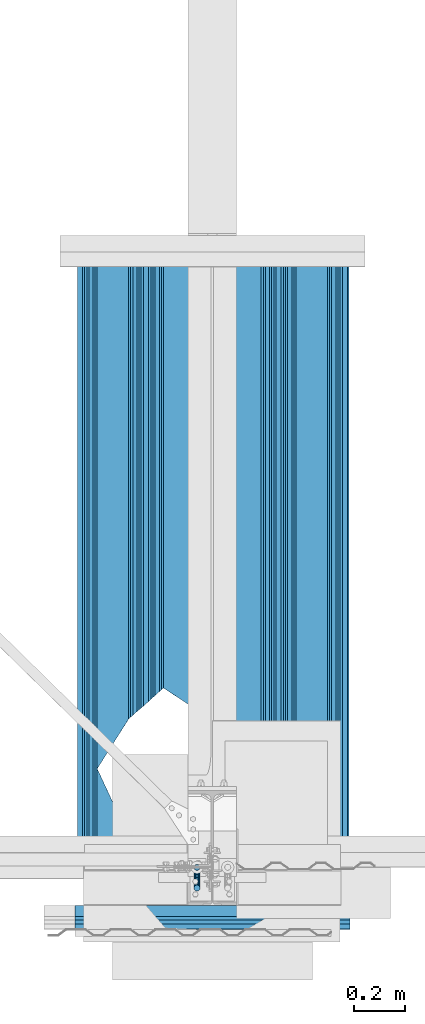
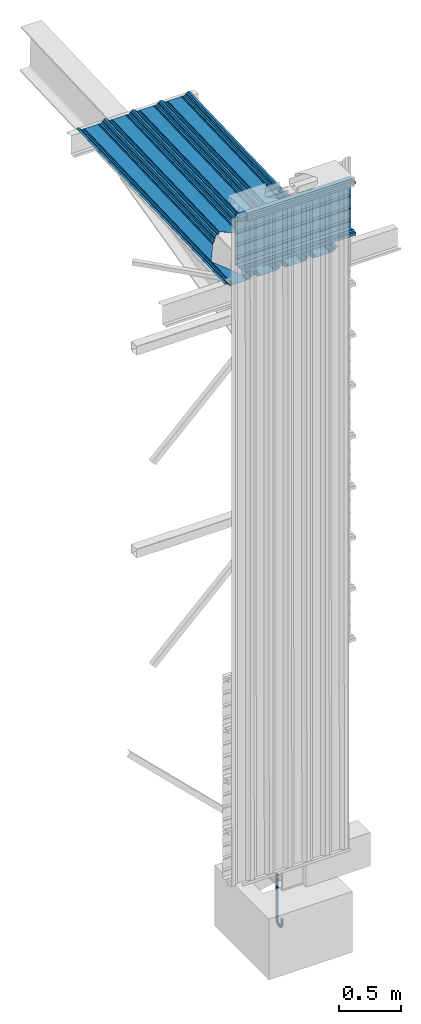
# One storey, part 6 of 21: 3 beams.
"""IFC2X3 building model written with IfcOpenShell, lengths in millimetres."""

import ifcopenshell
import ifcopenshell.guid

model = None  # the IFC model being written
_history = None  # IfcOwnerHistory: only IFC2X3 demands one
_inside = {}  # id of a spatial element -> (the spatial element, [elements in it])
_under = {}  # id of a project, library or spatial element -> (it, [spatial elements below it])
_declared = {}  # id of a project -> (the project, [libraries it declares])
_typed = {}  # id of a type object -> (the type object, [elements of that type])
_made_of = {}  # id of a material, layer set ... -> (it, [elements and type objects made of it])


def new_model(schema):
    """Start an empty IFC model of exactly this schema.

    Asked for "IFC4X3", IfcOpenShell would pick the latest addendum, in which some entities
    have other attributes; the version numbers below select the first issue.
    IFC2X3 requires an IfcOwnerHistory on every rooted entity: one is made here for all.
    """
    global model, _history
    if schema == "IFC4X3":
        model = ifcopenshell.file(schema_version=(4, 3, 0, 0))
    else:
        model = ifcopenshell.file(schema=schema)
    _inside.clear()
    _under.clear()
    _declared.clear()
    _typed.clear()
    _made_of.clear()
    _history = None
    if model.schema == "IFC2X3":
        org = make("IfcOrganization", Name="unknown")
        user = make(
            "IfcPersonAndOrganization",
            ThePerson=make("IfcPerson", FamilyName="unknown"),
            TheOrganization=org,
        )
        app = make(
            "IfcApplication",
            ApplicationDeveloper=org,
            Version="unknown",
            ApplicationFullName="unknown",
            ApplicationIdentifier="unknown",
        )
        _history = make(
            "IfcOwnerHistory",
            OwningUser=user,
            OwningApplication=app,
            ChangeAction="ADDED",
            CreationDate=0,
        )
    return model


def make(cls, **values):
    """One entity of the class cls with the attributes given. An attribute that is None is left unset."""
    return model.create_entity(
        cls, **{name: value for name, value in values.items() if value is not None}
    )


def rooted(cls, **values):
    """An entity with a GlobalId (a new one), such as an element, a storey or a relation."""
    return make(cls, GlobalId=ifcopenshell.guid.new(), OwnerHistory=_history, **values)


def si_unit(unit_type, name, prefix=None):
    """IfcSIUnit, for example si_unit("LENGTHUNIT", "METRE", prefix="MILLI")."""
    return make("IfcSIUnit", UnitType=unit_type, Prefix=prefix, Name=name)


def assignment(units):
    """IfcUnitAssignment: the units of a project."""
    return None if units is None else make("IfcUnitAssignment", Units=units)


def point(xyz):
    """IfcCartesianPoint."""
    return None if xyz is None else make("IfcCartesianPoint", Coordinates=xyz)


def direction(xyz):
    """IfcDirection."""
    return None if xyz is None else make("IfcDirection", DirectionRatios=xyz)


def frame(location, z_axis=None, x_axis=None):
    """IfcAxis2Placement3D, a coordinate frame: its origin and axes. An axis left out is left unset."""
    return make(
        "IfcAxis2Placement3D",
        Location=point(location),
        Axis=direction(z_axis),
        RefDirection=direction(x_axis),
    )


def origin_with_axes():
    """The frame at (0, 0, 0) with the z axis (0, 0, 1) and the x axis (1, 0, 0) written out."""
    return frame((0.0, 0.0, 0.0), z_axis=(0.0, 0.0, 1.0), x_axis=(1.0, 0.0, 0.0))


def place(relative_to, where):
    """IfcLocalPlacement: puts the frame where relative to a parent placement (None: the world)."""
    return make(
        "IfcLocalPlacement", PlacementRelTo=relative_to, RelativePlacement=where
    )


def context(
    kind, dimensions, precision=None, world=None, true_north=None, identifier=None
):
    """IfcGeometricRepresentationContext, for example the 3D "Model" context."""
    return make(
        "IfcGeometricRepresentationContext",
        ContextIdentifier=identifier,
        ContextType=kind,
        CoordinateSpaceDimension=dimensions,
        Precision=precision,
        WorldCoordinateSystem=world,
        TrueNorth=true_north,
    )


def project(units=None, contexts=None):
    """IfcProject with its units and contexts."""
    return rooted(
        "IfcProject",
        Name="project",
        RepresentationContexts=contexts,
        UnitsInContext=assignment(units),
    )


def spatial(cls, under=None, at=None, **own):
    """A site, building, storey or space (cls), placed at a placement, below another one or the project."""
    s = rooted(cls, ObjectPlacement=at, **own)
    if under is not None:
        _under.setdefault(under.id(), (under, []))[1].append(s)
    return s


def faces_of(points, faces, orient=None, outer=None):
    """IfcFace entities. A face is a list of loops; a loop is a list of indices into points, from 0.

    orient and outer hold one flag for each loop. By default every Orientation is true, the
    first loop of a face is its IfcFaceOuterBound and the others are IfcFaceBound.
    """
    made = []
    for i, loops in enumerate(faces):
        bounds = []
        for j, loop in enumerate(loops):
            is_outer = j == 0 if outer is None else outer[i][j]
            bounds.append(
                make(
                    "IfcFaceOuterBound" if is_outer else "IfcFaceBound",
                    Bound=make("IfcPolyLoop", Polygon=[points[k] for k in loop]),
                    Orientation=True if orient is None else orient[i][j],
                )
            )
        made.append(make("IfcFace", Bounds=bounds))
    return made


def faceted_brep(points, faces, orient=None, outer=None, voids=None):
    """IfcFacetedBrep: a solid bounded by flat faces; with voids (closed shells), ...WithVoids."""
    shared = [point(p) for p in points]
    hull = make("IfcClosedShell", CfsFaces=faces_of(shared, faces, orient, outer))
    if voids is None:
        return make("IfcFacetedBrep", Outer=hull)
    return make(
        "IfcFacetedBrepWithVoids",
        Outer=hull,
        Voids=[
            make(cls, CfsFaces=faces_of(shared, fs, o, b)) for cls, fs, o, b in voids
        ],
    )


def shape(context_of_items, identifier, shape_type, items):
    """IfcShapeRepresentation: the items that make up one representation, for example the "Body"."""
    return make(
        "IfcShapeRepresentation",
        ContextOfItems=context_of_items,
        RepresentationIdentifier=identifier,
        RepresentationType=shape_type,
        Items=items,
    )


def material(Name=None, Category=None):
    """IfcMaterial."""
    return make("IfcMaterial", Name=Name, Category=Category)


def made_of(thing, what):
    """Note that an element or type object is made of a material, layer set ...; save() writes the relation."""
    if what is not None:
        _made_of.setdefault(what.id(), (what, []))[1].append(thing)
    return thing


def type_object(cls, material=None, **own):
    """A type object (cls), such as IfcWallType, which elements share."""
    return made_of(rooted(cls, **own), material)


def element(
    cls,
    number,
    at=None,
    inside=None,
    cuts=None,
    type_object=None,
    material=None,
    context=None,
    identifier="Body",
    shape_type=None,
    held_by="IfcProductDefinitionShape",
    body=None,
    shapes=None,
    **own,
):
    """One element of the class cls, such as IfcWall. Its Tag is "e" and its number.

    at: its placement. inside: the storey or other place that contains it. cuts: it is an
    opening in that element (IfcRelVoidsElement). A single representation is given by context,
    identifier, shape_type and body (its items); several are given by shapes. held_by: the class
    of the entity that holds the representations. save() writes the other relations.
    """
    e = rooted(cls, Tag="e%d" % number, ObjectPlacement=at, **own)
    if body is not None:
        shapes = [shape(context, identifier, shape_type, body)]
    if shapes is not None:
        e.Representation = make(held_by, Representations=shapes)
    if inside is not None:
        _inside.setdefault(inside.id(), (inside, []))[1].append(e)
    if cuts is not None:
        rooted(
            "IfcRelVoidsElement", RelatingBuildingElement=cuts, RelatedOpeningElement=e
        )
    if type_object is not None:
        _typed.setdefault(type_object.id(), (type_object, []))[1].append(e)
    return made_of(e, material)


def aggregate(whole, parts):
    """IfcRelAggregates: a whole, such as a stair, and the parts it consists of."""
    return rooted("IfcRelAggregates", RelatingObject=whole, RelatedObjects=parts)


def save(model, path):
    """Write the relations noted so far, then the file.

    IfcRelAggregates (storeys below a building ...), IfcRelContainedInSpatialStructure (elements
    in a storey), IfcRelDefinesByType, IfcRelAssociatesMaterial and IfcRelDeclares: one each for
    every whole, place, type object, material and project.
    """
    for whole, parts in _under.values():
        aggregate(whole, parts)
    for where, things in _inside.values():
        rooted(
            "IfcRelContainedInSpatialStructure",
            RelatedElements=things,
            RelatingStructure=where,
        )
    for kind, things in _typed.values():
        rooted("IfcRelDefinesByType", RelatedObjects=things, RelatingType=kind)
    for what, things in _made_of.values():
        rooted("IfcRelAssociatesMaterial", RelatedObjects=things, RelatingMaterial=what)
    for by, libraries in _declared.values():
        rooted("IfcRelDeclares", RelatingContext=by, RelatedDefinitions=libraries)
    model.write(path)


model = new_model("IFC2X3")

# Units and contexts
model_context_1 = context("Model", 3, precision=1e-05, world=origin_with_axes(), identifier="Body")
model_context_2 = context("Model", 3, precision=1e-05, world=origin_with_axes())
ifc_project = project(units=[si_unit("LENGTHUNIT", "METRE", prefix="MILLI"), si_unit("AREAUNIT", "SQUARE_METRE"), si_unit("VOLUMEUNIT", "CUBIC_METRE"), si_unit("MASSUNIT", "GRAM", prefix="KILO"), si_unit("TIMEUNIT", "SECOND"), si_unit("PLANEANGLEUNIT", "RADIAN"), si_unit("SOLIDANGLEUNIT", "STERADIAN"), si_unit("THERMODYNAMICTEMPERATUREUNIT", "DEGREE_CELSIUS"), si_unit("LUMINOUSINTENSITYUNIT", "LUMEN")], contexts=[model_context_1, model_context_2])

# Site, building, storey
site_placement = place(None, origin_with_axes())
site = spatial("IfcSite", under=ifc_project, at=site_placement, Name="Undefined", CompositionType="ELEMENT")
building_placement = place(site_placement, origin_with_axes())
building = spatial("IfcBuilding", under=site, at=building_placement, Name="Undefined", CompositionType="ELEMENT")
storey_placement = place(building_placement, origin_with_axes())
storey = spatial("IfcBuildingStorey", under=building, at=storey_placement, Name="Undefined", CompositionType="ELEMENT")

# Beams
ifc_material = material(Name="STEEL/S235JR")
beam_type_1 = type_object("IfcBeamType", Name="ARCLAD_FPB_MURESCO_1.500.90_BS_75", PredefinedType="NOTDEFINED")
beam_1_placement = place(storey_placement, frame((-536.5, -270.99202, 6279.9985), z_axis=(4.4408925e-19, 1.0, 3.1900003e-05), x_axis=(1.0, 0.0, 0.0)))
element("IfcBeam", 1, at=beam_1_placement, inside=storey, type_object=beam_type_1, material=ifc_material, Name="bac", ObjectType="ARCLAD_FPB_MURESCO_1.500.90_BS_75", context=model_context_1, shape_type="Brep", body=[
    faceted_brep([(0.0, 278.0, -36.0), (0.0, 278.0, -45.0), (1073.0, 278.0, -45.0), (1073.0, 278.0, -36.0), (0.0, 250.0, -45.0), (1073.0, 250.0, -45.0), (0.0, 250.0, -26.110001), (1073.0, 250.0, -26.110001), (0.0, 242.17, -10.67), (1073.0, 242.17, -10.67), (0.0, 250.0, 4.7800002), (1073.0, 250.0, 4.7800002), (0.0, 250.0, 46.0), (1073.0, 250.0, 46.0), (0.0, 200.44, 46.0), (1073.0, 200.44, 46.0), (0.0, 185.0, 38.169998), (1073.0, 185.0, 38.169998), (0.0, 169.56, 46.0), (1073.0, 169.56, 46.0), (0.0, 77.110001, 46.0), (1073.0, 77.110001, 46.0), (0.0, 61.669998, 38.169998), (1073.0, 61.669998, 38.169998), (0.0, 46.220001, 46.0), (1073.0, 46.220001, 46.0), (0.0, -46.220001, 46.0), (1073.0, -46.220001, 46.0), (0.0, -61.669998, 38.169998), (1073.0, -61.669998, 38.169998), (0.0, -77.110001, 46.0), (1073.0, -77.110001, 46.0), (0.0, -169.56, 46.0), (1073.0, -169.56, 46.0), (0.0, -185.0, 38.169998), (1073.0, -185.0, 38.169998), (0.0, -200.44, 46.0), (1073.0, -200.44, 46.0), (0.0, -250.0, 46.0), (1073.0, -250.0, 46.0), (0.0, -250.0, 4.7800002), (1073.0, -250.0, 4.7800002), (0.0, -242.17, -10.67), (1073.0, -242.17, -10.67), (0.0, -250.0, -26.110001), (1073.0, -250.0, -26.110001), (0.0, -250.0, -45.0), (1073.0, -250.0, -45.0), (0.0, -230.0, -45.0), (1073.0, -230.0, -45.0), (0.0, -225.35001, -41.540001), (1073.0, -225.35001, -41.540001), (0.0, -225.95, -40.740002), (1073.0, -225.95, -40.740002), (0.0, -230.33, -44.0), (1073.0, -230.33, -44.0), (0.0, -249.0, -44.0), (1073.0, -249.0, -44.0), (0.0, -249.0, -26.35), (1073.0, -249.0, -26.35), (0.0, -241.05, -10.67), (1073.0, -241.05, -10.67), (0.0, -249.0, 5.02), (1073.0, -249.0, 5.02), (0.0, -249.0, 45.0), (1073.0, -249.0, 45.0), (0.0, -200.67999, 45.0), (1073.0, -200.67999, 45.0), (0.0, -185.0, 37.049999), (1073.0, -185.0, 37.049999), (0.0, -169.32001, 45.0), (1073.0, -169.32001, 45.0), (0.0, -77.349998, 45.0), (1073.0, -77.349998, 45.0), (0.0, -61.669998, 37.049999), (1073.0, -61.669998, 37.049999), (0.0, -45.98, 45.0), (1073.0, -45.98, 45.0), (0.0, 45.98, 45.0), (1073.0, 45.98, 45.0), (0.0, 61.669998, 37.049999), (1073.0, 61.669998, 37.049999), (0.0, 77.349998, 45.0), (1073.0, 77.349998, 45.0), (0.0, 169.32001, 45.0), (1073.0, 169.32001, 45.0), (0.0, 185.0, 37.049999), (1073.0, 185.0, 37.049999), (0.0, 200.67999, 45.0), (1073.0, 200.67999, 45.0), (0.0, 249.0, 45.0), (1073.0, 249.0, 45.0), (0.0, 249.0, 5.02), (1073.0, 249.0, 5.02), (0.0, 241.05, -10.67), (1073.0, 241.05, -10.67), (0.0, 249.0, -26.35), (1073.0, 249.0, -26.35), (0.0, 249.0, -46.0), (1073.0, 249.0, -46.0), (0.0, 279.0, -46.0), (1073.0, 279.0, -46.0), (0.0, 279.0, -36.0), (1073.0, 279.0, -36.0)], [[[0, 1, 2, 3]], [[1, 4, 5, 2]], [[4, 6, 7, 5]], [[6, 8, 9, 7]], [[8, 10, 11, 9]], [[10, 12, 13, 11]], [[12, 14, 15, 13]], [[14, 16, 17, 15]], [[16, 18, 19, 17]], [[18, 20, 21, 19]], [[20, 22, 23, 21]], [[22, 24, 25, 23]], [[24, 26, 27, 25]], [[26, 28, 29, 27]], [[28, 30, 31, 29]], [[30, 32, 33, 31]], [[32, 34, 35, 33]], [[34, 36, 37, 35]], [[36, 38, 39, 37]], [[38, 40, 41, 39]], [[40, 42, 43, 41]], [[42, 44, 45, 43]], [[44, 46, 47, 45]], [[46, 48, 49, 47]], [[48, 50, 51, 49]], [[50, 52, 53, 51]], [[52, 54, 55, 53]], [[54, 56, 57, 55]], [[56, 58, 59, 57]], [[58, 60, 61, 59]], [[60, 62, 63, 61]], [[62, 64, 65, 63]], [[64, 66, 67, 65]], [[66, 68, 69, 67]], [[68, 70, 71, 69]], [[70, 72, 73, 71]], [[72, 74, 75, 73]], [[74, 76, 77, 75]], [[76, 78, 79, 77]], [[78, 80, 81, 79]], [[80, 82, 83, 81]], [[82, 84, 85, 83]], [[84, 86, 87, 85]], [[86, 88, 89, 87]], [[88, 90, 91, 89]], [[90, 92, 93, 91]], [[92, 94, 95, 93]], [[94, 96, 97, 95]], [[96, 98, 99, 97]], [[98, 100, 101, 99]], [[100, 102, 103, 101]], [[102, 0, 3, 103]], [[5, 7, 9, 11, 13, 15, 17, 19, 21, 23, 25, 27, 29, 31, 33, 35, 37, 39, 41, 43, 45, 47, 49, 51, 53, 55, 57, 59, 61, 63, 65, 67, 69, 71, 73, 75, 77, 79, 81, 83, 85, 87, 89, 91, 93, 95, 97, 99, 101, 103, 3, 2]], [[102, 100, 98, 96, 94, 92, 90, 88, 86, 84, 82, 80, 78, 76, 74, 72, 70, 68, 66, 64, 62, 60, 58, 56, 54, 52, 50, 48, 46, 44, 42, 40, 38, 36, 34, 32, 30, 28, 26, 24, 22, 20, 18, 16, 14, 12, 10, 8, 6, 4, 1, 0]]]),
])
beam_type_2 = type_object("IfcBeamType", Name="D24", PredefinedType="NOTDEFINED")
beam_2_placement = place(storey_placement, frame((-60.0, -74.999999, -235.0), z_axis=(0.0, -1.0, 0.0), x_axis=(1.2908193e-13, -1.8000416e-13, -1.0)))
element("IfcBeam", 2, at=beam_2_placement, inside=storey, type_object=beam_type_2, material=ifc_material, Name="BARRE", ObjectType="D24", context=model_context_1, shape_type="Brep", body=[
    faceted_brep([(3.6095571e-12, -12.0, 7.2049033e-12), (1.6768809e-12, -10.392305, -6.0), (448.0, -10.392305, -6.0), (448.0, -12.0, -1.3180568e-10), (1.4210855e-13, -6.0, -10.392305), (448.0, -6.0, -10.392305), (-5.6843419e-13, -1.1297629e-12, -12.0), (448.0, 1.5937474e-11, -12.0), (-3.126388e-13, 6.0, -10.392305), (448.0, 6.0, -10.392305), (9.094947e-13, 10.392305, -6.0), (448.0, 10.392305, -6.0), (2.7000624e-12, 12.0, 7.2049033e-12), (448.0, 12.0, -1.3190515e-10), (4.6327386e-12, 10.392305, 6.0), (448.0, 10.392305, 6.0), (6.1675109e-12, 6.0, 10.392305), (448.0, 6.0, 10.392305), (6.8780537e-12, -1.1297629e-12, 12.0), (448.0, 1.5930368e-11, 12.0), (6.6222583e-12, -6.0, 10.392305), (448.0, -6.0, 10.392305), (5.4001248e-12, -10.392305, 6.0), (448.0, -10.392305, 6.0), (467.89954, 1.6179058e-11, -8.0417357), (467.2843, -6.0, -6.556419), (465.60344, -10.392305, -2.4984585), (463.30734, -12.0, 3.0448187), (461.01124, -10.392305, 8.5880959), (459.33037, -6.0, 12.646056), (458.71514, 1.6683543e-11, 14.131373), (459.33037, 6.0, 12.646056), (461.01124, 10.392305, 8.5880959), (463.30734, 12.0, 3.0448187), (465.60344, 10.392305, -2.4984585), (467.2843, 6.0, -6.556419), (483.63274, 6.0, 4.3672595), (484.76955, 1.679723e-11, 3.2304474), (480.52691, 10.392305, 7.4730881), (476.28427, 12.0, 11.715729), (472.04163, 10.392305, 15.958369), (468.9358, 6.0, 19.064198), (467.79899, 1.6683543e-11, 20.20101), (468.9358, -6.0, 19.064198), (472.04163, -10.392305, 15.958369), (476.28427, -12.0, 11.715729), (480.52691, -10.392305, 7.4730881), (483.63274, -6.0, 4.3672595), (494.55642, 6.0, 20.7157), (496.04174, 1.6974866e-11, 20.100462), (490.49846, 10.392305, 22.396562), (484.95518, 12.0, 24.692663), (479.4119, 10.392305, 26.988763), (475.35394, 6.0, 28.669626), (473.86863, 1.6441959e-11, 29.284864), (475.35394, -6.0, 28.669626), (479.4119, -10.392305, 26.988763), (484.95518, -12.0, 24.692663), (490.49846, -10.392305, 22.396562), (494.55642, -6.0, 20.7157), (498.3923, 6.0, 40.0), (500.0, 1.6562751e-11, 40.0), (494.0, 10.392305, 40.0), (488.0, 12.0, 40.0), (482.0, 10.392305, 40.0), (477.6077, 6.0, 40.0), (476.0, 1.5873525e-11, 40.0), (477.6077, -6.0, 40.0), (482.0, -10.392305, 40.0), (488.0, -12.0, 40.0), (494.0, -10.392305, 40.0), (498.3923, -6.0, 40.0), (494.0, -10.392305, 40.414497), (488.0, -12.0, 40.414497), (498.3923, -6.0, 40.414497), (500.0, 1.804068e-11, 40.414497), (498.3923, 6.0, 40.414497), (494.0, 10.392305, 40.414497), (488.0, 12.0, 40.414497), (482.0, 10.392305, 40.414497), (477.6077, 6.0, 40.414497), (476.0, 1.7060131e-11, 40.414497), (477.6077, -6.0, 40.414497), (482.0, -10.392305, 40.414497), (496.09339, 1.7820412e-11, 60.188864), (494.60648, -6.0, 59.577495), (490.54415, -10.392305, 57.907206), (484.99492, -12.0, 55.625548), (479.44568, -10.392305, 53.34389), (475.38336, -6.0, 51.673601), (473.89644, 1.5887736e-11, 51.062233), (475.38336, 6.0, 51.673601), (479.44568, 10.392305, 53.34389), (484.99492, 12.0, 55.625548), (490.54415, 10.392305, 57.907206), (494.60648, 6.0, 59.577495), (483.81784, 6.0, 75.861174), (484.96055, 1.6733281e-11, 76.99205), (480.69587, 10.392305, 72.771563), (476.4312, 12.0, 68.551076), (472.16652, 10.392305, 64.330589), (469.04455, 6.0, 61.240978), (467.90184, 1.5312196e-11, 60.110102), (469.04455, -6.0, 61.240978), (472.16652, -10.392305, 64.330589), (476.4312, -12.0, 68.551076), (480.69587, -10.392305, 72.771563), (483.81784, -6.0, 75.861174), (467.64742, 6.0, 86.818843), (468.27424, 1.5646151e-11, 88.299308), (465.9349, 10.392305, 82.774138), (463.59557, 12.0, 77.248967), (461.25623, 10.392305, 71.723797), (459.54372, 6.0, 67.679091), (458.9169, 1.4750867e-11, 66.198626), (459.54372, -6.0, 67.679091), (461.25623, -10.392305, 71.723797), (463.59557, -12.0, 77.248967), (465.9349, -10.392305, 82.774138), (467.64742, -6.0, 86.818843), (448.52489, 6.0, 90.804068), (448.54164, 1.4722445e-11, 92.411676), (448.47914, 10.392305, 86.412001), (448.41664, 12.0, 80.412327), (448.35415, 10.392305, 74.412652), (448.3084, 6.0, 70.020586), (448.29165, 1.4267698e-11, 68.412978), (448.3084, -6.0, 70.020586), (448.35415, -10.392305, 74.412652), (448.41664, -12.0, 80.412327), (448.47914, -10.392305, 86.412001), (448.52489, -6.0, 90.804068), (392.0625, -10.392305, 86.999675), (392.0, -12.0, 81.0), (392.10825, -6.0, 91.391741), (392.12499, 1.3642421e-11, 92.999349), (392.10825, 6.0, 91.391741), (392.0625, 10.392305, 86.999675), (392.0, 12.0, 81.0), (391.9375, 10.392305, 75.000325), (391.89175, 6.0, 70.608259), (391.87501, 1.3606893e-11, 69.000651), (391.89175, -6.0, 70.608259), (391.9375, -10.392305, 75.000325)], [[[0, 1, 2, 3]], [[1, 4, 5, 2]], [[4, 6, 7, 5]], [[6, 8, 9, 7]], [[8, 10, 11, 9]], [[10, 12, 13, 11]], [[12, 14, 15, 13]], [[14, 16, 17, 15]], [[16, 18, 19, 17]], [[18, 20, 21, 19]], [[20, 22, 23, 21]], [[22, 0, 3, 23]], [[22, 20, 18, 16, 14, 12, 10, 8, 6, 4, 1, 0]], [[5, 7, 24, 25]], [[2, 5, 25, 26]], [[3, 2, 26, 27]], [[23, 3, 27, 28]], [[21, 23, 28, 29]], [[19, 21, 29, 30]], [[17, 19, 30, 31]], [[15, 17, 31, 32]], [[13, 15, 32, 33]], [[11, 13, 33, 34]], [[9, 11, 34, 35]], [[7, 9, 35, 24]], [[35, 36, 37, 24]], [[34, 38, 36, 35]], [[33, 39, 38, 34]], [[32, 40, 39, 33]], [[31, 41, 40, 32]], [[30, 42, 41, 31]], [[29, 43, 42, 30]], [[28, 44, 43, 29]], [[27, 45, 44, 28]], [[26, 46, 45, 27]], [[25, 47, 46, 26]], [[24, 37, 47, 25]], [[36, 48, 49, 37]], [[38, 50, 48, 36]], [[39, 51, 50, 38]], [[40, 52, 51, 39]], [[41, 53, 52, 40]], [[42, 54, 53, 41]], [[43, 55, 54, 42]], [[44, 56, 55, 43]], [[45, 57, 56, 44]], [[46, 58, 57, 45]], [[47, 59, 58, 46]], [[37, 49, 59, 47]], [[48, 60, 61, 49]], [[50, 62, 60, 48]], [[51, 63, 62, 50]], [[52, 64, 63, 51]], [[53, 65, 64, 52]], [[54, 66, 65, 53]], [[55, 67, 66, 54]], [[56, 68, 67, 55]], [[57, 69, 68, 56]], [[58, 70, 69, 57]], [[59, 71, 70, 58]], [[49, 61, 71, 59]], [[69, 70, 72, 73]], [[70, 71, 74, 72]], [[71, 61, 75, 74]], [[61, 60, 76, 75]], [[60, 62, 77, 76]], [[62, 63, 78, 77]], [[63, 64, 79, 78]], [[64, 65, 80, 79]], [[65, 66, 81, 80]], [[66, 67, 82, 81]], [[67, 68, 83, 82]], [[68, 69, 73, 83]], [[74, 75, 84, 85]], [[72, 74, 85, 86]], [[73, 72, 86, 87]], [[83, 73, 87, 88]], [[82, 83, 88, 89]], [[81, 82, 89, 90]], [[80, 81, 90, 91]], [[79, 80, 91, 92]], [[78, 79, 92, 93]], [[77, 78, 93, 94]], [[76, 77, 94, 95]], [[75, 76, 95, 84]], [[95, 96, 97, 84]], [[94, 98, 96, 95]], [[93, 99, 98, 94]], [[92, 100, 99, 93]], [[91, 101, 100, 92]], [[90, 102, 101, 91]], [[89, 103, 102, 90]], [[88, 104, 103, 89]], [[87, 105, 104, 88]], [[86, 106, 105, 87]], [[85, 107, 106, 86]], [[84, 97, 107, 85]], [[96, 108, 109, 97]], [[98, 110, 108, 96]], [[99, 111, 110, 98]], [[100, 112, 111, 99]], [[101, 113, 112, 100]], [[102, 114, 113, 101]], [[103, 115, 114, 102]], [[104, 116, 115, 103]], [[105, 117, 116, 104]], [[106, 118, 117, 105]], [[107, 119, 118, 106]], [[97, 109, 119, 107]], [[108, 120, 121, 109]], [[110, 122, 120, 108]], [[111, 123, 122, 110]], [[112, 124, 123, 111]], [[113, 125, 124, 112]], [[114, 126, 125, 113]], [[115, 127, 126, 114]], [[116, 128, 127, 115]], [[117, 129, 128, 116]], [[118, 130, 129, 117]], [[119, 131, 130, 118]], [[109, 121, 131, 119]], [[129, 130, 132, 133]], [[130, 131, 134, 132]], [[131, 121, 135, 134]], [[121, 120, 136, 135]], [[120, 122, 137, 136]], [[122, 123, 138, 137]], [[123, 124, 139, 138]], [[124, 125, 140, 139]], [[125, 126, 141, 140]], [[126, 127, 142, 141]], [[127, 128, 143, 142]], [[128, 129, 133, 143]], [[134, 135, 136, 137, 138, 139, 140, 141, 142, 143, 133, 132]]]),
])
beam_type_3 = type_object("IfcBeamType", Name="ARCLAD_TSE_TOITESCO_4.1035.34_SRP_75", PredefinedType="NOTDEFINED")
beam_3_placement = place(storey_placement, frame((9.7284454e-06, 2359.7906, 5789.6338), z_axis=(1.2895225e-13, 0.03327, -0.9994464), x_axis=(4.6196486e-15, -0.9994464, -0.03327)))
element("IfcBeam", 3, at=beam_3_placement, inside=storey, type_object=beam_type_3, material=ifc_material, Name="bac", ObjectType="ARCLAD_TSE_TOITESCO_4.1035.34_SRP_75", context=model_context_1, shape_type="Brep", body=[
    faceted_brep([(2314.1912, 131.68475, 15.5), (2314.1912, 131.68475, 16.5), (2314.8754, 190.99001, 16.5), (2314.9649, 198.75, 12.62), (2315.0545, 206.50999, 16.5), (2315.2605, 224.37, 16.5), (2315.3497, 232.10001, 0.83999997), (2315.4454, 240.39, 0.11), (2315.5485, 249.33, -15.5), (2315.7659, 268.17001, -15.5), (2315.869, 277.10999, 0.11), (2315.9647, 285.39999, 0.83999997), (2316.0538, 293.13, 16.5), (2316.2599, 310.98999, 16.5), (2316.3494, 318.75, 12.62), (2316.439, 326.51001, 16.5), (2316.439, 326.75, 15.5), (2316.3494, 318.75, 11.5), (2316.2571, 310.75, 15.5), (2316.061, 293.75, 15.5), (2315.9722, 286.04999, -0.11), (2315.876, 277.72, -0.83999997), (2315.7726, 268.75, -16.5), (2315.5418, 248.75, -16.5), (2315.4383, 239.78, -0.83999997), (2315.3422, 231.45, -0.11), (2315.2534, 223.75, 15.5), (2315.0572, 206.75, 15.5), (2314.9649, 198.75, 11.5), (2314.8726, 190.75, 15.5), (2051.3207, 449.73999, 16.5), (2051.3207, 449.5, 15.5), (1857.1636, 326.51001, 16.5), (1857.1636, 326.75, 15.5), (1743.2532, 198.75, 11.5), (1750.3726, 206.75, 15.5), (1765.5013, 223.75, 15.5), (1772.3537, 231.45, -0.11), (1779.7668, 239.78, -0.83999997), (1787.7494, 248.75, -16.5), (1805.5479, 268.75, -16.5), (1813.5306, 277.72, -0.83999997), (1820.9436, 286.04999, -0.11), (1827.7961, 293.75, 15.5), (1842.9248, 310.75, 15.5), (1850.0442, 318.75, 11.5), (1850.0442, 318.75, 12.62), (1843.1384, 310.98999, 16.5), (1827.2443, 293.13, 16.5), (1820.3652, 285.39999, 0.83999997), (1812.9877, 277.10999, 0.11), (1805.0318, 268.17001, -15.5), (1788.2656, 249.33, -15.5), (1780.3097, 240.39, 0.11), (1772.9322, 232.10001, 0.83999997), (1766.0531, 224.37, 16.5), (1750.159, 206.50999, 16.5), (1743.2532, 198.75, 12.62), (1736.3474, 190.99001, 16.5), (1736.3474, 190.75, 15.5), (1854.6552, 10.0, -16.5), (1848.7918, 18.969999, -0.83999997), (1843.3467, 27.299999, -0.11), (1838.3134, 35.0, 15.5), (1827.2011, 52.0, 15.5), (1821.9717, 60.0, 11.5), (1816.7423, 68.0, 15.5), (1816.8992, 67.760002, 16.5), (1821.9717, 60.0, 12.62), (1827.0442, 52.240002, 16.5), (1838.7187, 34.380001, 16.5), (1843.7716, 26.65, 0.83999997), (1849.1905, 18.360001, 0.11), (1855.0343, 9.4200001, -15.5), (1861.1919, 2.0485864e-05, -15.5), (1861.1919, 2.0592905e-05, -16.5), (1983.194, -10.0, -16.5), (1976.1179, -9.4200001, -15.5), (2070.9132, -17.189989, -1.932939), (2070.9132, -17.189989, -3.9475765), (2083.6102, -9.4200001, -15.5), (2114.3969, 9.4200001, -15.5), (2129.0059, 18.360001, 0.11), (2142.5526, 26.65, 0.83999997), (2155.1843, 34.380001, 16.5), (2184.3696, 52.240002, 16.5), (2197.0503, 60.0, 12.62), (2209.731, 67.760002, 16.5), (2210.1232, 68.0, 15.5), (2197.0503, 60.0, 11.5), (2183.9774, 52.0, 15.5), (2156.1975, 35.0, 15.5), (2143.6148, 27.299999, -0.11), (2130.0027, 18.969999, -0.83999997), (2115.3447, 10.0, -16.5), (2082.6624, -10.0, -16.5), (0.0, -10.0, -16.5), (0.0, 10.0, -16.5), (-4.5474735e-13, 18.969999, -0.83999997), (0.0, 27.299999, -0.11), (0.0, 35.0, 15.5), (-4.5474735e-13, 52.0, 15.5), (-4.5474735e-13, 60.0, 11.5), (-4.5474735e-13, 68.0, 15.5), (-4.5474735e-13, 190.75, 15.5), (0.0, 198.75, 11.5), (-4.5474735e-13, 206.75, 15.5), (0.0, 223.75, 15.5), (0.0, 231.45, -0.11), (-4.5474735e-13, 239.78, -0.83999997), (-4.5474735e-13, 248.75, -16.5), (-4.5474735e-13, 268.75, -16.5), (-4.5474735e-13, 277.72, -0.83999997), (0.0, 286.04999, -0.11), (-4.5474735e-13, 293.75, 15.5), (-4.5474735e-13, 310.75, 15.5), (0.0, 318.75, 11.5), (0.0, 326.75, 15.5), (-4.5474735e-13, 449.5, 15.5), (0.0, 527.5, -16.5), (0.0, 527.5, -15.5), (2406.6946, 527.5, -15.5), (2406.6946, 527.5, -16.5), (-4.5474735e-13, 507.5, -16.5), (2406.6946, 507.5, -16.5), (-4.5474735e-13, 498.53, -0.83999997), (2406.6946, 498.53, -0.83999997), (0.0, 490.20001, -0.11), (2406.6946, 490.20001, -0.11), (-4.5474735e-13, 482.5, 15.5), (2406.6946, 482.5, 15.5), (-4.5474735e-13, 465.5, 15.5), (2406.6946, 465.5, 15.5), (-4.5474735e-13, 457.5, 11.5), (2406.6946, 457.5, 11.5), (2406.6946, 449.5, 15.5), (2406.6946, 326.75, 15.5), (2406.6946, 318.75, 11.5), (2406.6946, 310.75, 15.5), (2406.6946, 293.75, 15.5), (2406.6946, 286.04999, -0.11), (2406.6946, 277.72, -0.83999997), (2406.6946, 268.75, -16.5), (2406.6946, 248.75, -16.5), (2406.6946, 239.78, -0.83999997), (2406.6946, 231.45, -0.11), (2406.6946, 223.75, 15.5), (2406.6946, 206.75, 15.5), (2406.6946, 198.75, 11.5), (2406.6946, 190.75, 15.5), (2406.6946, 68.0, 15.5), (2406.6946, 60.0, 11.5), (2406.6946, 52.0, 15.5), (2406.6946, 35.0, 15.5), (2406.6946, 27.299999, -0.11), (2406.6946, 18.969999, -0.83999997), (2406.6946, 10.0, -16.5), (2406.6946, -10.0, -16.5), (2406.6946, -18.969999, -0.83999997), (-4.5474735e-13, -18.969999, -0.83999997), (0.0, -27.299999, -0.11), (2406.6946, -27.299999, -0.11), (-4.5474735e-13, -35.0, 15.5), (2406.6946, -35.0, 15.5), (0.0, -52.0, 15.5), (2406.6946, -52.0, 15.5), (0.0, -60.0, 11.5), (2406.6946, -60.0, 11.5), (0.0, -68.0, 15.5), (2406.6946, -68.0, 15.5), (0.0, -190.75, 15.5), (2406.6946, -190.75, 15.5), (0.0, -198.75, 11.5), (2406.6946, -198.75, 11.5), (0.0, -206.75, 15.5), (2406.6946, -206.75, 15.5), (-4.5474735e-13, -223.75, 15.5), (2406.6946, -223.75, 15.5), (0.0, -231.45, -0.11), (2406.6946, -231.45, -0.11), (-4.5474735e-13, -239.78, -0.83999997), (2406.6946, -239.78, -0.83999997), (0.0, -248.75, -16.5), (2406.6946, -248.75, -16.5), (0.0, -268.75, -16.5), (2406.6946, -268.75, -16.5), (-4.5474735e-13, -277.72, -0.83999997), (2406.6946, -277.72, -0.83999997), (0.0, -286.04999, -0.11), (2406.6946, -286.04999, -0.11), (0.0, -293.75, 15.5), (2406.6946, -293.75, 15.5), (0.0, -310.75, 15.5), (2406.6946, -310.75, 15.5), (0.0, -318.75, 11.5), (2406.6946, -318.75, 11.5), (-4.5474735e-13, -326.75, 15.5), (2406.6946, -326.75, 15.5), (0.0, -449.5, 15.5), (2406.6946, -449.5, 15.5), (0.0, -457.5, 11.5), (2406.6946, -457.5, 11.5), (0.0, -465.5, 15.5), (2406.6946, -465.5, 15.5), (0.0, -482.5, 15.5), (2406.6946, -482.5, 15.5), (0.0, -490.20001, -0.11), (2406.6946, -490.20001, -0.11), (-4.5474735e-13, -498.53, -0.83999997), (2406.6946, -498.53, -0.83999997), (0.0, -507.5, -16.5), (2406.6946, -507.5, -16.5), (0.0, -527.5, -16.5), (2406.6946, -527.5, -16.5), (-4.5474735e-13, -533.22998, -6.5), (2406.6946, -533.22998, -6.5), (-4.5474735e-13, -532.08002, -6.5), (2406.6946, -532.08002, -6.5), (0.0, -526.91998, -15.5), (2406.6946, -526.91998, -15.5), (0.0, -508.07999, -15.5), (2406.6946, -508.07999, -15.5), (0.0, -499.14001, 0.11), (2406.6946, -499.14001, 0.11), (0.0, -490.85001, 0.83999997), (2406.6946, -490.85001, 0.83999997), (-4.5474735e-13, -483.12, 16.5), (2406.6946, -483.12, 16.5), (-4.5474735e-13, -465.26001, 16.5), (2406.6946, -465.26001, 16.5), (0.0, -457.5, 12.62), (2406.6946, -457.5, 12.62), (-4.5474735e-13, -449.73999, 16.5), (2406.6946, -449.73999, 16.5), (-4.5474735e-13, -326.51001, 16.5), (2406.6946, -326.51001, 16.5), (0.0, -318.75, 12.62), (2406.6946, -318.75, 12.62), (-4.5474735e-13, -310.98999, 16.5), (2406.6946, -310.98999, 16.5), (-4.5474735e-13, -293.13, 16.5), (2406.6946, -293.13, 16.5), (0.0, -285.39999, 0.83999997), (2406.6946, -285.39999, 0.83999997), (0.0, -277.10999, 0.11), (2406.6946, -277.10999, 0.11), (0.0, -268.17001, -15.5), (2406.6946, -268.17001, -15.5), (0.0, -249.33, -15.5), (2406.6946, -249.33, -15.5), (-4.5474735e-13, -240.39, 0.11), (2406.6946, -240.39, 0.11), (-4.5474735e-13, -232.10001, 0.83999997), (2406.6946, -232.10001, 0.83999997), (-4.5474735e-13, -224.37, 16.5), (2406.6946, -224.37, 16.5), (-4.5474735e-13, -206.50999, 16.5), (2406.6946, -206.50999, 16.5), (0.0, -198.75, 12.62), (2406.6946, -198.75, 12.62), (-4.5474735e-13, -190.99001, 16.5), (2406.6946, -190.99001, 16.5), (-4.5474735e-13, -67.760002, 16.5), (2406.6946, -67.760002, 16.5), (0.0, -60.0, 12.62), (2406.6946, -60.0, 12.62), (-4.5474735e-13, -52.240002, 16.5), (2406.6946, -52.240002, 16.5), (-9.094947e-13, -34.380001, 16.5), (2406.6946, -34.380001, 16.5), (-4.5474735e-13, -26.65, 0.83999997), (2406.6946, -26.65, 0.83999997), (-4.5474735e-13, -18.360001, 0.11), (2406.6946, -18.360001, 0.11), (0.0, 9.4200001, -15.5), (0.0, -9.4200001, -15.5), (0.0, 18.360001, 0.11), (0.0, 26.65, 0.83999997), (-4.5474735e-13, 34.380001, 16.5), (-9.094947e-13, 52.240002, 16.5), (-4.5474735e-13, 60.0, 12.62), (-9.094947e-13, 67.760002, 16.5), (-9.094947e-13, 190.99001, 16.5), (0.0, 198.75, 12.62), (-4.5474735e-13, 206.50999, 16.5), (-4.5474735e-13, 224.37, 16.5), (0.0, 232.10001, 0.83999997), (0.0, 240.39, 0.11), (-4.5474735e-13, 249.33, -15.5), (-4.5474735e-13, 268.17001, -15.5), (-4.5474735e-13, 277.10999, 0.11), (-4.5474735e-13, 285.39999, 0.83999997), (-9.094947e-13, 293.13, 16.5), (-4.5474735e-13, 310.98999, 16.5), (0.0, 318.75, 12.62), (-4.5474735e-13, 326.51001, 16.5), (-9.094947e-13, 449.73999, 16.5), (-4.5474735e-13, 457.5, 12.62), (-9.094947e-13, 465.26001, 16.5), (-9.094947e-13, 483.12, 16.5), (-4.5474735e-13, 490.85001, 0.83999997), (-4.5474735e-13, 499.14001, 0.11), (0.0, 508.07999, -15.5), (2406.6946, 457.5, 12.62), (2406.6946, 465.26001, 16.5), (2406.6946, 483.12, 16.5), (2406.6946, 490.85001, 0.83999997), (2406.6946, 499.14001, 0.11), (2406.6946, 508.07999, -15.5), (2406.6946, 449.73999, 16.5), (2406.6946, 326.51001, 16.5), (2406.6946, 318.75, 12.62), (2406.6946, 310.98999, 16.5), (2406.6946, 293.13, 16.5), (2406.6946, 285.39999, 0.83999997), (2406.6946, 277.10999, 0.11), (2406.6946, 268.17001, -15.5), (2406.6946, 249.33, -15.5), (2406.6946, 240.39, 0.11), (2406.6946, 232.10001, 0.83999997), (2406.6946, 224.37, 16.5), (2406.6946, 206.50999, 16.5), (2406.6946, 198.75, 12.62), (2406.6946, 190.99001, 16.5), (2406.6946, 67.760002, 16.5), (2406.6946, 60.0, 12.62), (2406.6946, 52.240002, 16.5), (2406.6946, 34.380001, 16.5), (2406.6946, 26.65, 0.83999997), (2406.6946, 18.360001, 0.11), (2406.6946, 9.4200001, -15.5), (2406.6946, -9.4200001, -15.5)], [[[0, 1, 2, 3, 4, 5, 6, 7, 8, 9, 10, 11, 12, 13, 14, 15, 16, 17, 18, 19, 20, 21, 22, 23, 24, 25, 26, 27, 28, 29]], [[16, 15, 30, 31]], [[31, 30, 32, 33]], [[34, 35, 36, 37, 38, 39, 40, 41, 42, 43, 44, 45, 33, 32, 46, 47, 48, 49, 50, 51, 52, 53, 54, 55, 56, 57, 58, 59]], [[60, 61, 62, 63, 64, 65, 66, 59, 58, 67, 68, 69, 70, 71, 72, 73, 74, 75]], [[76, 75, 74, 77, 78, 79]], [[79, 78, 80, 81, 82, 83, 84, 85, 86, 87, 1, 0, 88, 89, 90, 91, 92, 93, 94, 95]], [[96, 97, 60, 75, 76]], [[97, 98, 61, 60]], [[98, 99, 62, 61]], [[99, 100, 63, 62]], [[100, 101, 64, 63]], [[101, 102, 65, 64]], [[102, 103, 66, 65]], [[103, 104, 59, 66]], [[104, 105, 34, 59]], [[105, 106, 35, 34]], [[106, 107, 36, 35]], [[107, 108, 37, 36]], [[108, 109, 38, 37]], [[109, 110, 39, 38]], [[110, 111, 40, 39]], [[111, 112, 41, 40]], [[112, 113, 42, 41]], [[113, 114, 43, 42]], [[114, 115, 44, 43]], [[115, 116, 45, 44]], [[116, 117, 33, 45]], [[117, 118, 31, 33]], [[119, 120, 121, 122]], [[123, 119, 122, 124]], [[125, 123, 124, 126]], [[127, 125, 126, 128]], [[129, 127, 128, 130]], [[131, 129, 130, 132]], [[133, 131, 132, 134]], [[31, 118, 133, 134, 135]], [[135, 136, 16, 31]], [[136, 137, 17, 16]], [[137, 138, 18, 17]], [[138, 139, 19, 18]], [[139, 140, 20, 19]], [[140, 141, 21, 20]], [[141, 142, 22, 21]], [[142, 143, 23, 22]], [[143, 144, 24, 23]], [[144, 145, 25, 24]], [[145, 146, 26, 25]], [[146, 147, 27, 26]], [[147, 148, 28, 27]], [[148, 149, 29, 28]], [[29, 149, 150, 88, 0]], [[150, 151, 89, 88]], [[151, 152, 90, 89]], [[152, 153, 91, 90]], [[153, 154, 92, 91]], [[154, 155, 93, 92]], [[155, 156, 94, 93]], [[156, 157, 95, 94]], [[157, 158, 159, 96, 76, 79, 95]], [[160, 159, 158, 161]], [[162, 160, 161, 163]], [[164, 162, 163, 165]], [[166, 164, 165, 167]], [[168, 166, 167, 169]], [[170, 168, 169, 171]], [[172, 170, 171, 173]], [[174, 172, 173, 175]], [[176, 174, 175, 177]], [[178, 176, 177, 179]], [[180, 178, 179, 181]], [[182, 180, 181, 183]], [[184, 182, 183, 185]], [[186, 184, 185, 187]], [[188, 186, 187, 189]], [[190, 188, 189, 191]], [[192, 190, 191, 193]], [[194, 192, 193, 195]], [[196, 194, 195, 197]], [[198, 196, 197, 199]], [[200, 198, 199, 201]], [[202, 200, 201, 203]], [[204, 202, 203, 205]], [[206, 204, 205, 207]], [[208, 206, 207, 209]], [[210, 208, 209, 211]], [[212, 210, 211, 213]], [[214, 212, 213, 215]], [[216, 214, 215, 217]], [[218, 216, 217, 219]], [[220, 218, 219, 221]], [[222, 220, 221, 223]], [[224, 222, 223, 225]], [[226, 224, 225, 227]], [[228, 226, 227, 229]], [[230, 228, 229, 231]], [[232, 230, 231, 233]], [[234, 232, 233, 235]], [[236, 234, 235, 237]], [[238, 236, 237, 239]], [[240, 238, 239, 241]], [[242, 240, 241, 243]], [[244, 242, 243, 245]], [[246, 244, 245, 247]], [[248, 246, 247, 249]], [[250, 248, 249, 251]], [[252, 250, 251, 253]], [[254, 252, 253, 255]], [[256, 254, 255, 257]], [[258, 256, 257, 259]], [[260, 258, 259, 261]], [[262, 260, 261, 263]], [[264, 262, 263, 265]], [[266, 264, 265, 267]], [[268, 266, 267, 269]], [[270, 268, 269, 271]], [[272, 270, 271, 273]], [[73, 274, 275, 77, 74]], [[276, 274, 73, 72]], [[277, 276, 72, 71]], [[278, 277, 71, 70]], [[279, 278, 70, 69]], [[280, 279, 69, 68]], [[281, 280, 68, 67]], [[282, 281, 67, 58]], [[283, 282, 58, 57]], [[284, 283, 57, 56]], [[285, 284, 56, 55]], [[286, 285, 55, 54]], [[287, 286, 54, 53]], [[288, 287, 53, 52]], [[289, 288, 52, 51]], [[290, 289, 51, 50]], [[291, 290, 50, 49]], [[292, 291, 49, 48]], [[293, 292, 48, 47]], [[294, 293, 47, 46]], [[295, 294, 46, 32]], [[296, 295, 32, 30]], [[119, 123, 125, 127, 129, 131, 133, 118, 117, 116, 115, 114, 113, 112, 111, 110, 109, 108, 107, 106, 105, 104, 103, 102, 101, 100, 99, 98, 97, 96, 159, 160, 162, 164, 166, 168, 170, 172, 174, 176, 178, 180, 182, 184, 186, 188, 190, 192, 194, 196, 198, 200, 202, 204, 206, 208, 210, 212, 214, 216, 218, 220, 222, 224, 226, 228, 230, 232, 234, 236, 238, 240, 242, 244, 246, 248, 250, 252, 254, 256, 258, 260, 262, 264, 266, 268, 270, 272, 275, 274, 276, 277, 278, 279, 280, 281, 282, 283, 284, 285, 286, 287, 288, 289, 290, 291, 292, 293, 294, 295, 296, 297, 298, 299, 300, 301, 302, 120]], [[298, 297, 303, 304]], [[299, 298, 304, 305]], [[300, 299, 305, 306]], [[301, 300, 306, 307]], [[302, 301, 307, 308]], [[120, 302, 308, 121]], [[307, 306, 305, 304, 303, 309, 310, 311, 312, 313, 314, 315, 316, 317, 318, 319, 320, 321, 322, 323, 324, 325, 326, 327, 328, 329, 330, 331, 273, 271, 269, 267, 265, 263, 261, 259, 257, 255, 253, 251, 249, 247, 245, 243, 241, 239, 237, 235, 233, 231, 229, 227, 225, 223, 221, 219, 217, 215, 213, 211, 209, 207, 205, 203, 201, 199, 197, 195, 193, 191, 189, 187, 185, 183, 181, 179, 177, 175, 173, 171, 169, 167, 165, 163, 161, 158, 157, 156, 155, 154, 153, 152, 151, 150, 149, 148, 147, 146, 145, 144, 143, 142, 141, 140, 139, 138, 137, 136, 135, 134, 132, 130, 128, 126, 124, 122, 121, 308]], [[297, 296, 30, 309, 303]], [[310, 309, 30, 15]], [[311, 310, 15, 14]], [[312, 311, 14, 13]], [[313, 312, 13, 12]], [[314, 313, 12, 11]], [[315, 314, 11, 10]], [[316, 315, 10, 9]], [[317, 316, 9, 8]], [[318, 317, 8, 7]], [[319, 318, 7, 6]], [[320, 319, 6, 5]], [[321, 320, 5, 4]], [[322, 321, 4, 3]], [[323, 322, 3, 2]], [[324, 323, 2, 1, 87]], [[325, 324, 87, 86]], [[326, 325, 86, 85]], [[327, 326, 85, 84]], [[328, 327, 84, 83]], [[329, 328, 83, 82]], [[330, 329, 82, 81]], [[331, 330, 81, 80]], [[275, 272, 273, 331, 80, 78, 77]]]),
])

save(model, "model.ifc")
